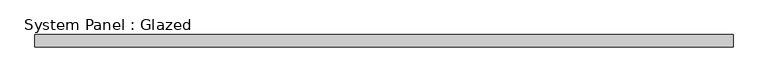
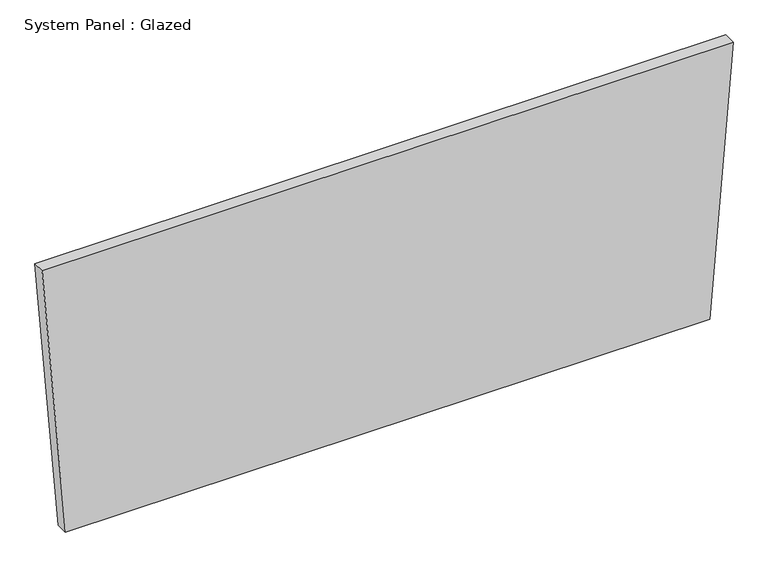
"""IFC4 building model written with IfcOpenShell, lengths in millimetres: plate geometry, System Panel : Glazed."""

from ifc_helpers import new_model, si_unit, frame, origin, place, context, project, spatial, polyline, outline, extrude, source, transform, mapped, element, save


def system_panel_glazed_e1662e95(model_context):
    return source(origin(), model_context, "Body", "SweptSolid", [
        extrude(outline(polyline([(0.0, -658.8013987), (0.0, 658.8013987), (582.1493342, 706.6723692), (582.1493342, -706.6723692), (0.0, -658.8013987)])), frame((0.0, -44.45, 0.0), z_axis=(0.0, 1.0, 0.0), x_axis=(0.0, 0.0, 1.0)), (0.0, 0.0, 1.0), 25.4),
    ])


if __name__ == "__main__":
    model = new_model("IFC4")
    model_context = context("Model", 3, world=origin())
    ifc_project = project(units=[si_unit("LENGTHUNIT", "METRE", prefix="MILLI")], contexts=[model_context])
    site = spatial("IfcSite", under=ifc_project)
    building = spatial("IfcBuilding", under=site)
    placement = place(None, origin())
    system_panel_glazed_shape = system_panel_glazed_e1662e95(model_context)
    element("IfcPlate", 1, ObjectType="System Panel : Glazed", at=placement, inside=building, context=model_context, shape_type="MappedRepresentation", body=[
        mapped(system_panel_glazed_shape, transform((0.0, 0.0, 0.0), x_axis=(1.0, 0.0, 0.0), y_axis=(0.0, 1.0, 0.0), z_axis=(0.0, 0.0, 1.0))),
    ])
    save(model, "model.ifc")
